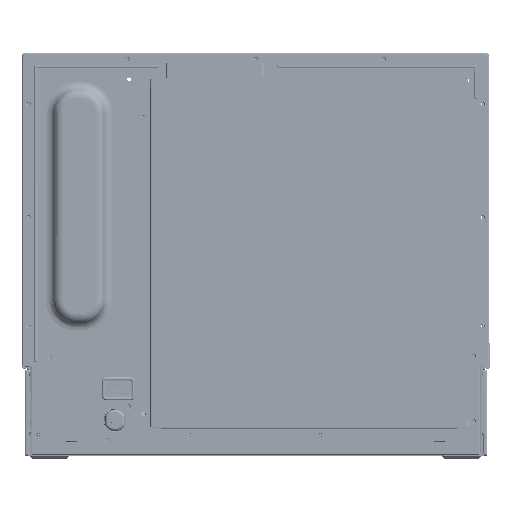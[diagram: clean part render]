
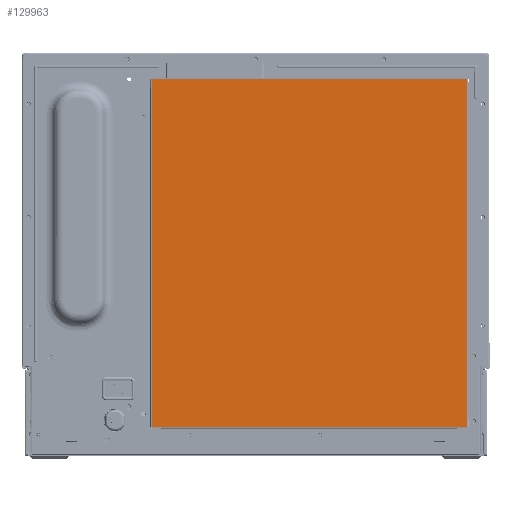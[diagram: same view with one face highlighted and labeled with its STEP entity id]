
A CAD part, left-side view. The second image highlights one B-rep face of the part: STEP entity #129963.
In plain terms, the highlighted planar face has unit normal (-1, 0, 0).
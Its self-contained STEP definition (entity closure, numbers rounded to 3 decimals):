
#72829=CARTESIAN_POINT('Vertex',(-354.2,150.799,-110.303)) ;
#72832=CARTESIAN_POINT('Line Origine',(-354.2,150.78,65.197)) ;
#72836=CARTESIAN_POINT('Vertex',(-354.2,150.76,242.197)) ;
#74073=CARTESIAN_POINT('Vertex',(-354.2,-168.84,242.162)) ;
#74076=CARTESIAN_POINT('Line Origine',(-354.2,-168.82,65.162)) ;
#74080=CARTESIAN_POINT('Vertex',(-354.2,-168.801,-110.338)) ;
#129910=CARTESIAN_POINT('Axis2P3D Location',(-354.2,14.981,50.027)) ;
#129915=CARTESIAN_POINT('Line Origine',(-354.2,-9.04,242.18)) ;
#129920=CARTESIAN_POINT('Line Origine',(-354.2,150.649,-110.303)) ;
#129924=CARTESIAN_POINT('Vertex',(-354.2,150.499,-110.303)) ;
#129927=CARTESIAN_POINT('Line Origine',(-354.2,150.499,-110.703)) ;
#129931=CARTESIAN_POINT('Vertex',(-354.2,150.499,-111.103)) ;
#129934=CARTESIAN_POINT('Line Origine',(-354.2,-9.001,-111.12)) ;
#129938=CARTESIAN_POINT('Vertex',(-354.2,-168.501,-111.138)) ;
#129941=CARTESIAN_POINT('Line Origine',(-354.2,-168.501,-110.738)) ;
#129945=CARTESIAN_POINT('Vertex',(-354.2,-168.501,-110.338)) ;
#129948=CARTESIAN_POINT('Line Origine',(-354.2,-168.651,-110.338)) ;
#72833=DIRECTION('Vector Direction',(0.,0.,1.)) ;
#74077=DIRECTION('Vector Direction',(0.,0.,1.)) ;
#129911=DIRECTION('Axis2P3D Direction',(-1.,0.,0.)) ;
#129912=DIRECTION('Axis2P3D XDirection',(0.,-1.,0.)) ;
#129916=DIRECTION('Vector Direction',(0.,-1.,0.)) ;
#129921=DIRECTION('Vector Direction',(0.,1.,0.)) ;
#129928=DIRECTION('Vector Direction',(0.,0.,-1.)) ;
#129935=DIRECTION('Vector Direction',(0.,1.,0.)) ;
#129942=DIRECTION('Vector Direction',(0.,0.,-1.)) ;
#129949=DIRECTION('Vector Direction',(0.,1.,0.)) ;
#129913=AXIS2_PLACEMENT_3D('Plane Axis2P3D',#129910,#129911,#129912) ;
#129954=ORIENTED_EDGE('',*,*,#74082,.F.) ;
#129955=ORIENTED_EDGE('',*,*,#129919,.F.) ;
#129956=ORIENTED_EDGE('',*,*,#72838,.F.) ;
#129957=ORIENTED_EDGE('',*,*,#129926,.F.) ;
#129958=ORIENTED_EDGE('',*,*,#129933,.F.) ;
#129959=ORIENTED_EDGE('',*,*,#129940,.T.) ;
#129960=ORIENTED_EDGE('',*,*,#129947,.F.) ;
#129961=ORIENTED_EDGE('',*,*,#129952,.F.) ;
#72834=VECTOR('Line Direction',#72833,1.) ;
#74078=VECTOR('Line Direction',#74077,1.) ;
#129917=VECTOR('Line Direction',#129916,1.) ;
#129922=VECTOR('Line Direction',#129921,1.) ;
#129929=VECTOR('Line Direction',#129928,1.) ;
#129936=VECTOR('Line Direction',#129935,1.) ;
#129943=VECTOR('Line Direction',#129942,1.) ;
#129950=VECTOR('Line Direction',#129949,1.) ;
#129963=ADVANCED_FACE('\X2\FF8AFF9FFF70FF82\X0\ \X2\FF8EFF9EFF83FF9EFF68FF70\X0\',(#129962),#129914,.T.) ;
#72838=EDGE_CURVE('',#72830,#72837,#72835,.T.) ;
#74082=EDGE_CURVE('',#74074,#74081,#74079,.F.) ;
#129919=EDGE_CURVE('',#72837,#74074,#129918,.T.) ;
#129926=EDGE_CURVE('',#129925,#72830,#129923,.T.) ;
#129933=EDGE_CURVE('',#129932,#129925,#129930,.F.) ;
#129940=EDGE_CURVE('',#129932,#129939,#129937,.F.) ;
#129947=EDGE_CURVE('',#129946,#129939,#129944,.T.) ;
#129952=EDGE_CURVE('',#74081,#129946,#129951,.T.) ;
#129953=EDGE_LOOP('',(#129954,#129955,#129956,#129957,#129958,#129959,#129960,#129961)) ;
#129962=FACE_OUTER_BOUND('',#129953,.T.) ;
#72835=LINE('Line',#72832,#72834) ;
#74079=LINE('Line',#74076,#74078) ;
#129918=LINE('Line',#129915,#129917) ;
#129923=LINE('Line',#129920,#129922) ;
#129930=LINE('Line',#129927,#129929) ;
#129937=LINE('Line',#129934,#129936) ;
#129944=LINE('Line',#129941,#129943) ;
#129951=LINE('Line',#129948,#129950) ;
#129914=PLANE('',#129913) ;
#72830=VERTEX_POINT('',#72829) ;
#72837=VERTEX_POINT('',#72836) ;
#74074=VERTEX_POINT('',#74073) ;
#74081=VERTEX_POINT('',#74080) ;
#129925=VERTEX_POINT('',#129924) ;
#129932=VERTEX_POINT('',#129931) ;
#129939=VERTEX_POINT('',#129938) ;
#129946=VERTEX_POINT('',#129945) ;
